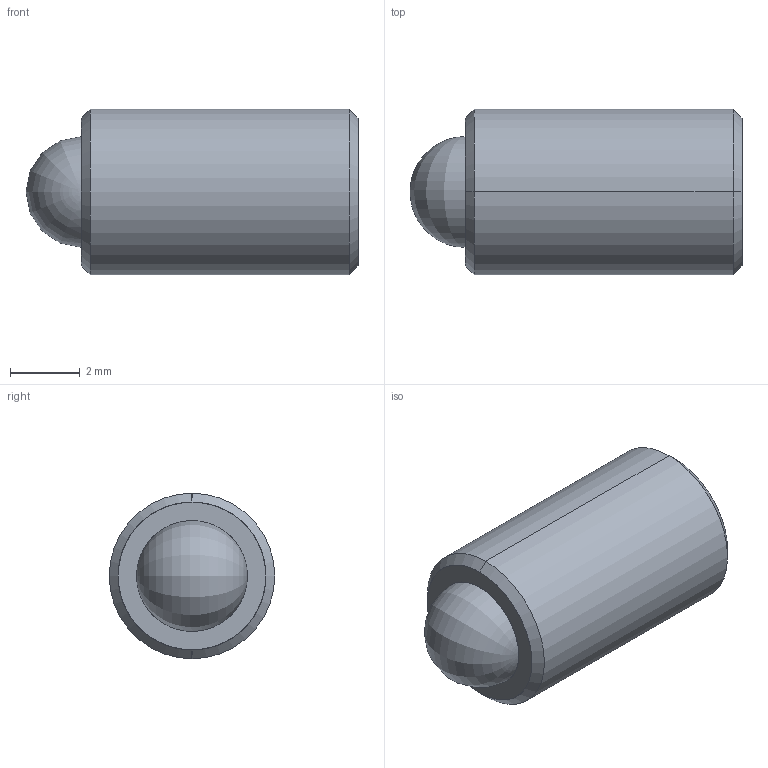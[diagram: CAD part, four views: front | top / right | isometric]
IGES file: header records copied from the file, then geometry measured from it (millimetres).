
Start section: SolidWorks IGES file using analytic representation for surfaces
Global section: file name: C:\Users\workpc\Desktop\KMA Solidworks\TS187-100-375.IGS; native system: SolidWorks 2013; preprocessor: SolidWorks 2013; author: workpc; date: 130211.111547; units: inch
Bounding box: 9.52 x 4.75 x 4.75 mm (x, y, z)
Surface area: 212.5 mm2 (no closed solid volume)
Topology: 0 solids, 0 shells, 20 faces, 204 edges, 200 vertices
Faces by surface type: revolution 10, bspline 10
